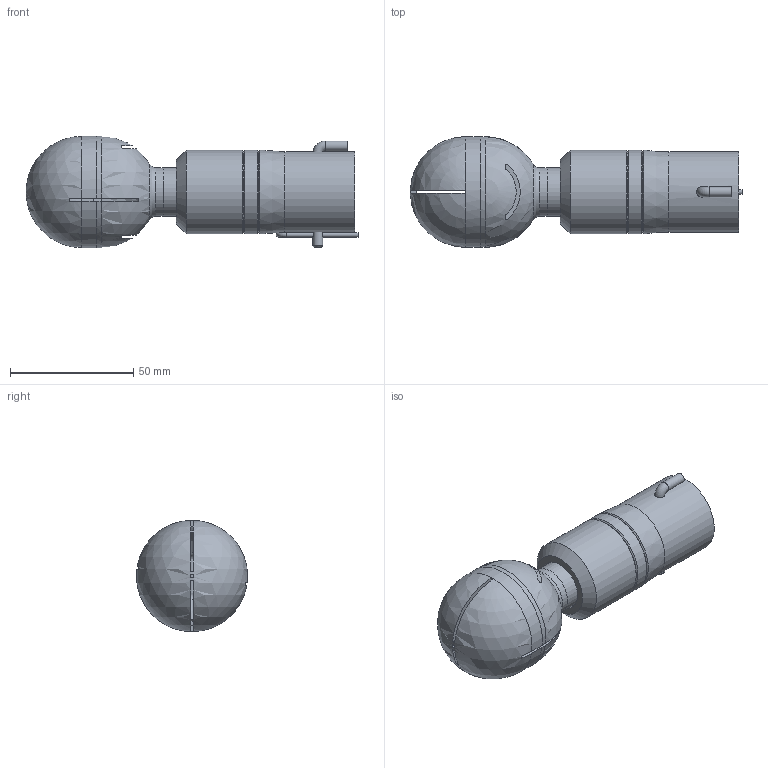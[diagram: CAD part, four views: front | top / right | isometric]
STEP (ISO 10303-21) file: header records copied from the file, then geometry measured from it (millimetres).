
FILE_DESCRIPTION((''),'2;1');
FILE_NAME('K:\2013 konstrukce\5xxxx\5322-045-Rotační mycí hlavice dvouložisková\5322B-045-360-29,5-Rotační mycí hlavice dvouložisková DN 45 - 360° připojení 29,5 - závlačka.stp','2019-05-13T07:27:26',('konstrukce'),(''),'Autodesk Inventor 2010','Autodesk Inventor 2010','');
FILE_SCHEMA(('AUTOMOTIVE_DESIGN { 1 0 10303 214 1 1 1 1 }'));
Length unit declared in the file: millimetre
Products named in the file (11): 5322B-045-360-29,5-Rotační mycí hlavice dvouložisková DN 45 - 360° připojení 29,5 - závlačka; 5322P-045-05- HORNÍ KRYT LOŽISKA; Kulíčka 1; 5322P-045-03-TĚLESO LOŽISEK; 5322P-045-04- SPODNÍ KRYT LOŽISKA; 5322P-045-06-OBJÍMKA PRO ZÁVLAČKU-29,5; 5322P-045-10-FRÉZOVÁNÍ DRÁŽEK 360; 5322P-045-01-SPODNÍ POLOKOULE; 5322P-045-02-HORNÍ POLOKOULE; 5322P-045-11- ZAJIŠTOVACÍ KOLÍK; 5322P-045-12- POJISTNÁ ZÁVLAČKA
Assembly tree (31 placements, depth 3):
  5322B-045-360-29,5-Rotační mycí hlavice dvouložisková DN 45 - 360° připojení 29,5 - závlačka
    5322P-045-05- HORNÍ KRYT LOŽISKA
    Kulíčka 1  x22
    5322P-045-03-TĚLESO LOŽISEK
    5322P-045-04- SPODNÍ KRYT LOŽISKA
    5322P-045-06-OBJÍMKA PRO ZÁVLAČKU-29,5
    5322P-045-10-FRÉZOVÁNÍ DRÁŽEK 360
      5322P-045-01-SPODNÍ POLOKOULE
      5322P-045-02-HORNÍ POLOKOULE
    5322P-045-11- ZAJIŠTOVACÍ KOLÍK
    5322P-045-12- POJISTNÁ ZÁVLAČKA
Bounding box: 134.43 x 44.93 x 45 mm (x, y, z)
Volume: 42679.6 mm3; surface area: 40918.3 mm2
Topology: 30 solids, 30 shells, 184 faces, 417 edges, 271 vertices
Faces by surface type: plane 83, cylinder 48, sphere 24, torus 13, cone 10, bspline 6
Full cylindrical faces by diameter (mm): 1.3 x1, 1.8 x3, 1.9 x1, 4 x2, 4.2 x2, 14 x2, 15.5 x1, 16.5 x2, 17.5 x2, 18 x1, 19.5 x2, 20.5 x1, 28 x1, 29.5 x2, 31 x4, 32.5 x1, 34 x2
Entity records: 4810 total; most frequent: CARTESIAN_POINT 1282, DIRECTION 770, ORIENTED_EDGE 520, AXIS2_PLACEMENT_3D 350, EDGE_CURVE 260, EDGE_LOOP 232, VERTEX_POINT 198, CIRCLE 168
